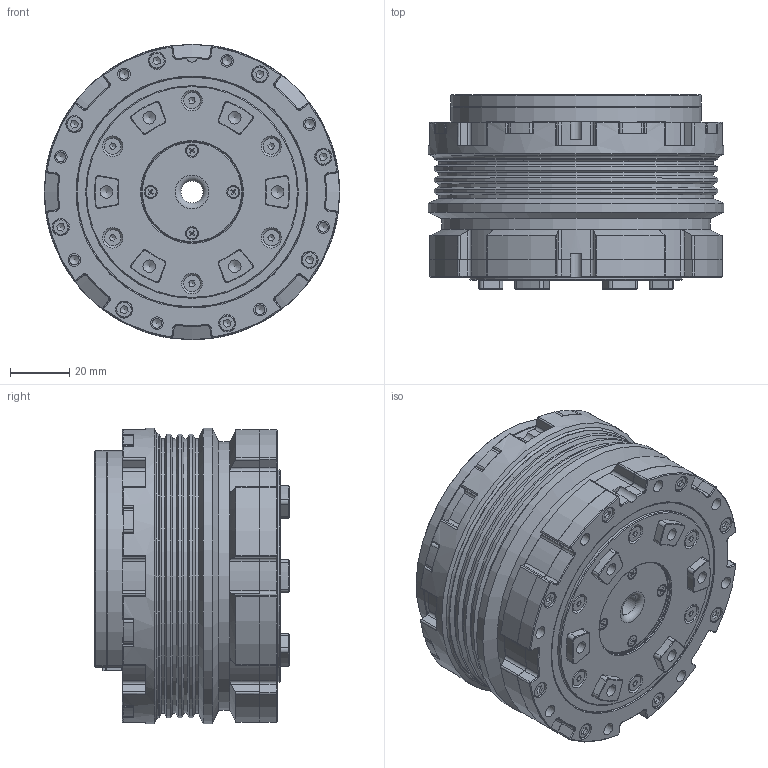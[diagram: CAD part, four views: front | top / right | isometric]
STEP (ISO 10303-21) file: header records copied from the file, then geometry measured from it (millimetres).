
FILE_DESCRIPTION( ('This file contains a STEP AP42 implementation' ,'as created by ZW3D STEP Interface translator.') ,'2;1' );
FILE_NAME( '81530229 PJ3-97EC140_260304.stp' ,'26 3 5.10 837', (''), ('ZWCAD Software Co.'), 'Version 1.0', 'ZW3D to STEP translator', '' );
FILE_SCHEMA(('AUTOMOTIVE_DESIGN { 1 0 10303 214 1 1 1 1 }'));
Length unit declared in the file: millimetre
Products named in the file (4): 0; 81530229 PJ3-97EC140_260304; PJ3-97-7001_1; PJ3-97-7002_1
Assembly tree (2 placements, depth 2):
  0
  81530229 PJ3-97EC140_260304
    PJ3-97-7001_1
    PJ3-97-7002_1
Bounding box: 100 x 65.7 x 100 mm (x, y, z)
Volume: 107908.1 mm3; surface area: 91388.9 mm2
Topology: 41 solids, 52 shells, 3091 faces, 7819 edges, 5004 vertices
Faces by surface type: plane 1739, cylinder 729, cone 289, bspline 241, torus 75, sphere 18
Full cylindrical faces by diameter (mm): 1.6 x11, 1.74 x4, 2 x4, 2.05 x4, 2.2 x4, 2.208 x2, 2.5 x47, 2.7 x2, 3 x42, 3.2 x22, 3.3 x48, 3.8 x4, 4 x3, 4.2 x12, 4.3 x8, 4.8 x4, 5.5 x16, 5.54 x6, 5.8 x16, 5.9 x8, 6 x11, 7.5 x2, 10.5 x1, 19.2 x1, 34 x1, 34.2 x1, 38 x1, 40 x1, 41 x1, 42 x1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
Entity records: 99022 total; most frequent: CARTESIAN_POINT 22421, ORIENTED_EDGE 15469, DIRECTION 14433, EDGE_CURVE 7736, VECTOR 5131, LINE 5131, VERTEX_POINT 5032, AXIS2_PLACEMENT_3D 4651
